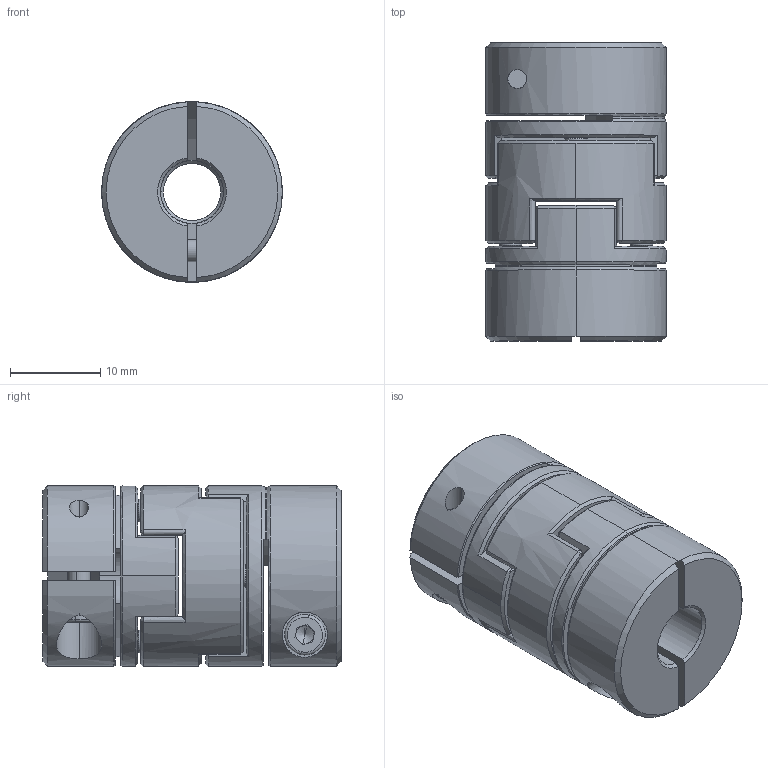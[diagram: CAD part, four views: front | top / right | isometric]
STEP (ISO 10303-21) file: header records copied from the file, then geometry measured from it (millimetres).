
FILE_DESCRIPTION (( 'STEP AP203' ), '1' );
FILE_NAME ('LZ-B-D20L33-6.35-7.STEP', '2021-10-29T05:38:42', ( '' ), ( '' ), 'SwSTEP 2.0', 'SolidWorks 2018', '' );
FILE_SCHEMA (( 'CONFIG_CONTROL_DESIGN' ));
Length unit declared in the file: millimetre
Products named in the file (1): LZ-B-D20L33-6.35-7
Bounding box: 20 x 33 x 20 mm (x, y, z)
Volume: 8377.6 mm3; surface area: 6110.4 mm2
Topology: 3 solids, 3 shells, 248 faces, 632 edges, 400 vertices
Faces by surface type: plane 112, cylinder 64, cone 42, bspline 26, torus 4
Entity records: 10263 total; most frequent: CARTESIAN_POINT 4455, ORIENTED_EDGE 1256, DIRECTION 1116, EDGE_CURVE 628, AXIS2_PLACEMENT_3D 431, VERTEX_POINT 400, EDGE_LOOP 276, VECTOR 254
